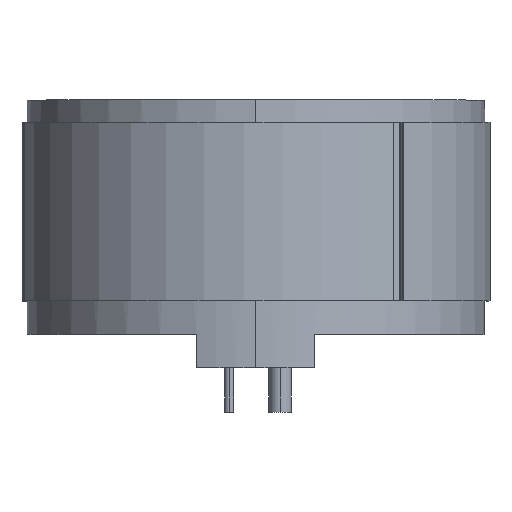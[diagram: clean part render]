
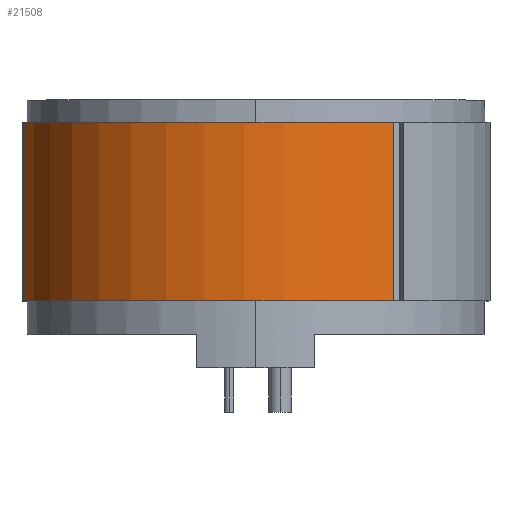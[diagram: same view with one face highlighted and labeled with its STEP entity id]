
A CAD part, top view. The second image highlights one B-rep face of the part: STEP entity #21508.
In plain terms, the highlighted cylindrical face has radius 105 mm (diameter 210 mm), a partial arc.
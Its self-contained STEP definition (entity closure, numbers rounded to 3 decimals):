
#204 = CYLINDRICAL_SURFACE ( 'NONE', #7721, 105. ) ;
#1152 = AXIS2_PLACEMENT_3D ( 'NONE', #14014, #16298, #24052 ) ;
#1746 = DIRECTION ( 'NONE',  ( 0., -1., 0. ) ) ;
#1804 = DIRECTION ( 'NONE',  ( 0., 1., 0. ) ) ;
#2302 = CARTESIAN_POINT ( 'NONE',  ( -166.432, -64.221, -41.233 ) ) ;
#3147 = CARTESIAN_POINT ( 'NONE',  ( -270.138, -64.221, -24.799 ) ) ;
#3230 = LINE ( 'NONE', #18589, #9090 ) ;
#5012 = DIRECTION ( 'NONE',  ( 0., 1., 0. ) ) ;
#6845 = CIRCLE ( 'NONE', #1152, 105. ) ;
#6864 = CARTESIAN_POINT ( 'NONE',  ( -270.138, -64.221, -24.799 ) ) ;
#7213 = LINE ( 'NONE', #3147, #7953 ) ;
#7616 = CARTESIAN_POINT ( 'NONE',  ( -104.721, -144.221, 43.719 ) ) ;
#7721 = AXIS2_PLACEMENT_3D ( 'NONE', #9710, #1746, #19479 ) ;
#7953 = VECTOR ( 'NONE', #22566, 1000. ) ;
#8425 = CIRCLE ( 'NONE', #18929, 105. ) ;
#8778 = ORIENTED_EDGE ( 'NONE', *, *, #15167, .T. ) ;
#9090 = VECTOR ( 'NONE', #5012, 1000. ) ;
#9273 = EDGE_CURVE ( 'NONE', #9543, #20418, #8425, .T. ) ;
#9525 = DIRECTION ( 'NONE',  ( 0., 0., 1. ) ) ;
#9543 = VERTEX_POINT ( 'NONE', #6864 ) ;
#9710 = CARTESIAN_POINT ( 'NONE',  ( -166.432, -64.221, -41.233 ) ) ;
#10271 = ORIENTED_EDGE ( 'NONE', *, *, #9273, .F. ) ;
#13801 = VERTEX_POINT ( 'NONE', #7616 ) ;
#13985 = EDGE_CURVE ( 'NONE', #13801, #20418, #3230, .T. ) ;
#14014 = CARTESIAN_POINT ( 'NONE',  ( -166.432, -144.221, -41.233 ) ) ;
#15167 = EDGE_CURVE ( 'NONE', #9543, #16574, #7213, .T. ) ;
#15231 = ORIENTED_EDGE ( 'NONE', *, *, #13985, .T. ) ;
#16298 = DIRECTION ( 'NONE',  ( 0., 1., 0. ) ) ;
#16528 = CARTESIAN_POINT ( 'NONE',  ( -104.721, -64.221, 43.719 ) ) ;
#16574 = VERTEX_POINT ( 'NONE', #21461 ) ;
#17207 = FACE_OUTER_BOUND ( 'NONE', #21333, .T. ) ;
#18589 = CARTESIAN_POINT ( 'NONE',  ( -104.721, -64.221, 43.719 ) ) ;
#18929 = AXIS2_PLACEMENT_3D ( 'NONE', #2302, #1804, #9525 ) ;
#19479 = DIRECTION ( 'NONE',  ( 0., 0., -1. ) ) ;
#19690 = EDGE_CURVE ( 'NONE', #16574, #13801, #6845, .T. ) ;
#20418 = VERTEX_POINT ( 'NONE', #16528 ) ;
#20804 = ORIENTED_EDGE ( 'NONE', *, *, #19690, .T. ) ;
#21333 = EDGE_LOOP ( 'NONE', ( #10271, #8778, #20804, #15231 ) ) ;
#21461 = CARTESIAN_POINT ( 'NONE',  ( -270.138, -144.221, -24.799 ) ) ;
#21508 = ADVANCED_FACE ( 'NONE', ( #17207 ), #204, .T. ) ;
#22566 = DIRECTION ( 'NONE',  ( 0., -1., 0. ) ) ;
#24052 = DIRECTION ( 'NONE',  ( 0., 0., 1. ) ) ;
